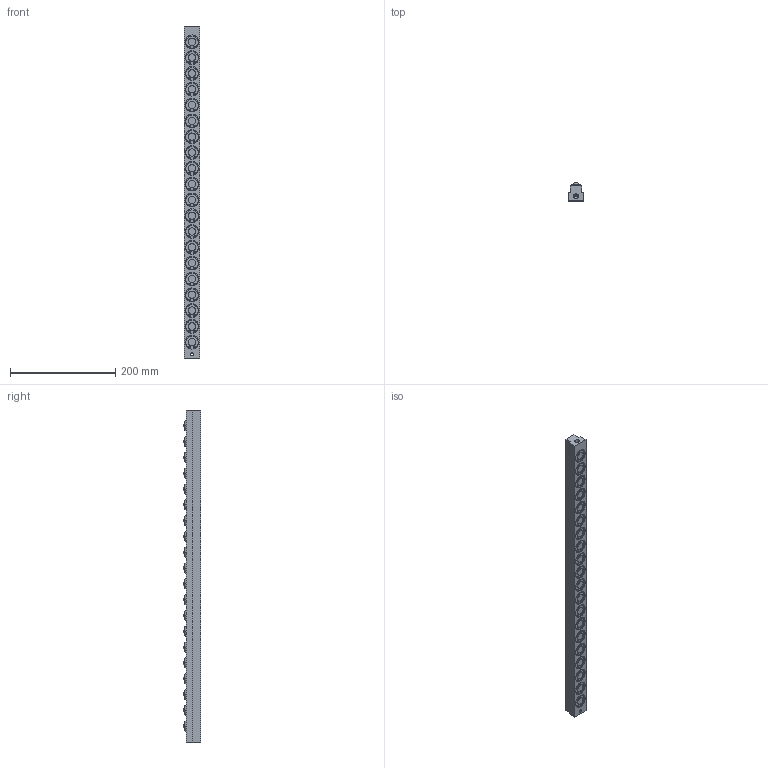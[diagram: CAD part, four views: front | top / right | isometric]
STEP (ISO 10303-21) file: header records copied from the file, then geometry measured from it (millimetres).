
FILE_DESCRIPTION (( 'STEP AP203' ), '1' );
FILE_NAME ('PVL20T-20.STEP', '2015-12-24T07:33:55', ( '' ), ( '' ), 'SwSTEP 2.0', 'SolidWorks 2013', '' );
FILE_SCHEMA (( 'CONFIG_CONTROL_DESIGN' ));
Length unit declared in the file: millimetre
Products named in the file (1): PVL20T-20
Bounding box: 30 x 34 x 630 mm (x, y, z)
Volume: 463879.2 mm3; surface area: 83700.4 mm2
Topology: 1 solids, 1 shells, 582 faces, 1392 edges, 933 vertices
Faces by surface type: cylinder 326, plane 172, torus 40, sphere 40, cone 4
Entity records: 17483 total; most frequent: DIRECTION 3452, CARTESIAN_POINT 2906, ORIENTED_EDGE 2780, AXIS2_PLACEMENT_3D 1479, EDGE_CURVE 1390, VERTEX_POINT 933, CIRCLE 896, EDGE_LOOP 707
